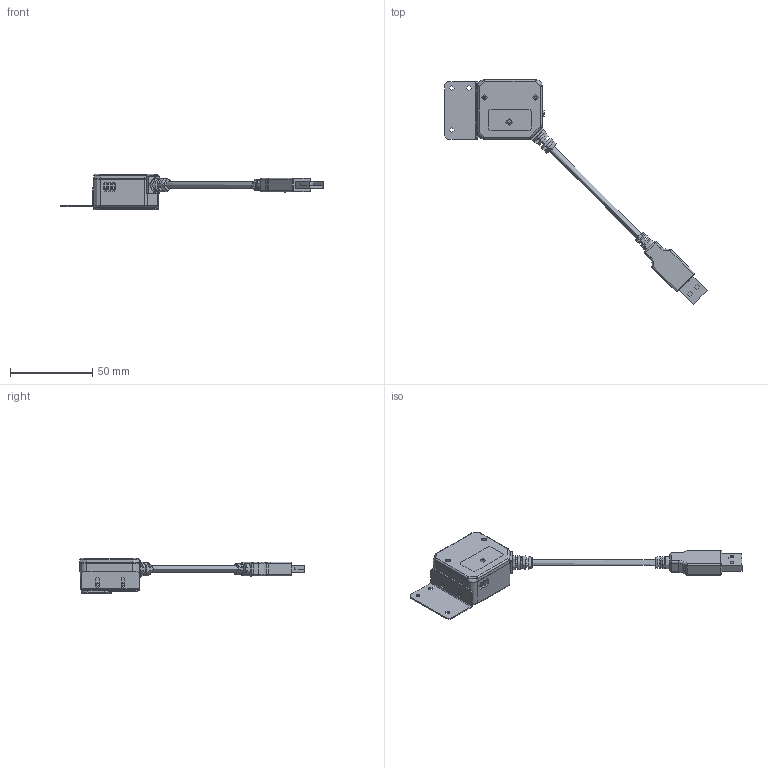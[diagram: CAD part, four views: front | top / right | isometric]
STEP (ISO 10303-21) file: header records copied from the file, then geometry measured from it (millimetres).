
FILE_DESCRIPTION(/* description */ (''),/* implementation_level */ '2;1');
FILE_NAME(/* name */ 'D:/360安全云盘同步版/产品开发/RT242/RT242-3D-2023.10.7/RT242_asm_20231007 - for-clients.stp',/* time_stamp */ '2023-10-08T17:26:10+08:00',/* author */ (''),/* organization */ (''),/* preprocessor_version */ 'ST-DEVELOPER v15.2',/* originating_system */ 'Autodesk Translator Framework v2.0.0.5431',/* authorisation */ '');
FILE_SCHEMA (('AUTOMOTIVE_DESIGN { 1 0 10303 214 3 1 1 }'));
Length unit declared in the file: centimetre
Products named in the file (1): (未保存)
Bounding box: 159.89 x 136.86 x 21.5 mm (x, y, z)
Volume: 17407.2 mm3; surface area: 21759.5 mm2
Topology: 15 solids, 15 shells, 998 faces, 2534 edges, 1626 vertices
Faces by surface type: plane 559, cylinder 247, bspline 81, cone 57, torus 46, sphere 8
Full cylindrical faces by diameter (mm): 0.998 x8, 1.35 x4, 1.5 x1, 1.6 x4, 1.75 x5, 2 x2, 2.8 x3, 3 x1, 3.1 x3, 3.3 x2, 3.5 x1, 4 x3, 4.64 x1, 5 x2, 5.2 x1
Entity records: 34229 total; most frequent: CARTESIAN_POINT 10784, ORIENTED_EDGE 4826, DIRECTION 4730, EDGE_CURVE 2413, AXIS2_PLACEMENT_3D 1619, VERTEX_POINT 1590, LINE 1492, VECTOR 1492
